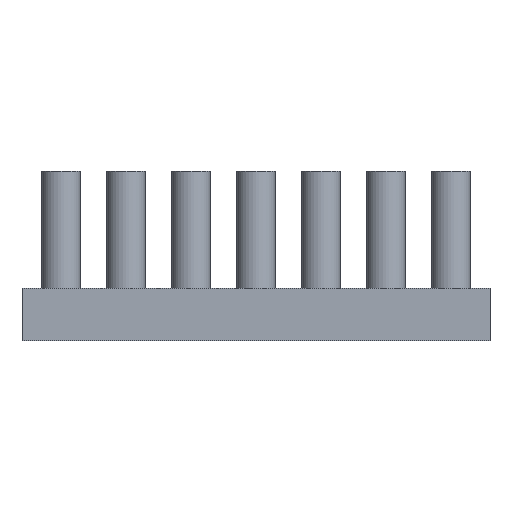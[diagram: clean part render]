
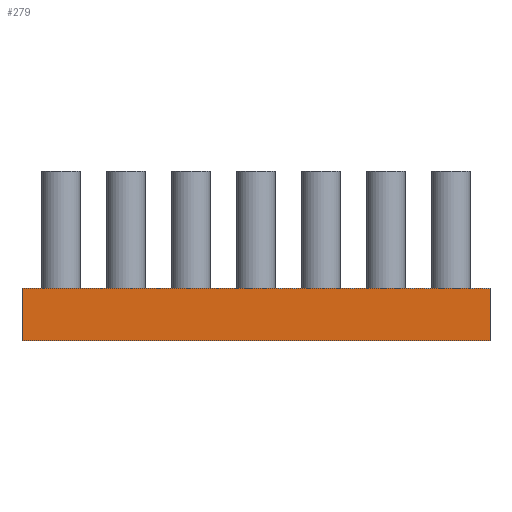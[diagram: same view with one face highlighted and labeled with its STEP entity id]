
A CAD part, left-side view. The second image highlights one B-rep face of the part: STEP entity #279.
In plain terms, the highlighted planar face has unit normal (-1, 0, 0).
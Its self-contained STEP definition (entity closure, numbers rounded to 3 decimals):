
#97=PLANE('',#1415);
#152=FACE_OUTER_BOUND('',#629,.T.);
#210=LINE('',#2145,#222);
#211=LINE('',#2147,#223);
#212=LINE('',#2149,#224);
#213=LINE('',#2151,#225);
#222=VECTOR('',#1772,1.);
#223=VECTOR('',#1775,1.);
#224=VECTOR('',#1776,1.);
#225=VECTOR('',#1777,1.);
#279=ADVANCED_FACE('',(#152),#97,.T.);
#629=EDGE_LOOP('',(#837,#838,#839,#840));
#837=ORIENTED_EDGE('',*,*,#1162,.F.);
#838=ORIENTED_EDGE('',*,*,#1161,.F.);
#839=ORIENTED_EDGE('',*,*,#1163,.T.);
#840=ORIENTED_EDGE('',*,*,#1164,.T.);
#1053=VERTEX_POINT('',#2142);
#1054=VERTEX_POINT('',#2144);
#1055=VERTEX_POINT('',#2148);
#1056=VERTEX_POINT('',#2150);
#1161=EDGE_CURVE('',#1054,#1053,#210,.T.);
#1162=EDGE_CURVE('',#1053,#1055,#211,.T.);
#1163=EDGE_CURVE('',#1054,#1056,#212,.T.);
#1164=EDGE_CURVE('',#1056,#1055,#213,.T.);
#1415=AXIS2_PLACEMENT_3D('',#2152,#1778,#1779);
#1772=DIRECTION('',(0.,0.,1.));
#1775=DIRECTION('',(0.,-1.,0.));
#1776=DIRECTION('',(0.,-1.,0.));
#1777=DIRECTION('',(0.,0.,1.));
#1778=DIRECTION('',(-1.,0.,0.));
#1779=DIRECTION('',(0.,-1.,0.));
#2142=CARTESIAN_POINT('',(-1.5,16.5,0.));
#2144=CARTESIAN_POINT('',(-1.5,16.5,-2.));
#2145=CARTESIAN_POINT('',(-1.5,16.5,-2.));
#2147=CARTESIAN_POINT('',(-1.5,16.5,0.));
#2148=CARTESIAN_POINT('',(-1.5,-1.5,0.));
#2149=CARTESIAN_POINT('',(-1.5,16.5,-2.));
#2150=CARTESIAN_POINT('',(-1.5,-1.5,-2.));
#2151=CARTESIAN_POINT('',(-1.5,-1.5,-2.));
#2152=CARTESIAN_POINT('',(-1.5,16.5,-2.));
